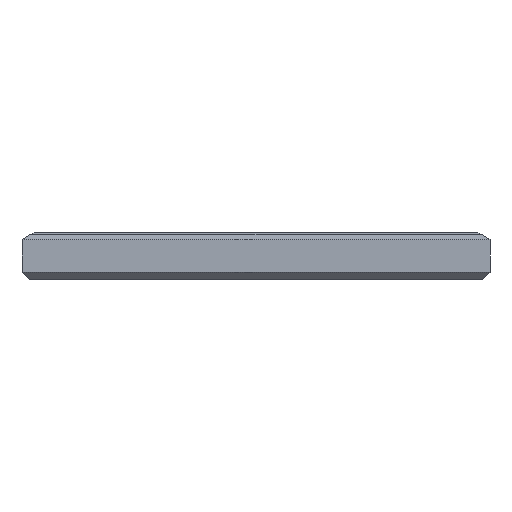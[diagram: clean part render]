
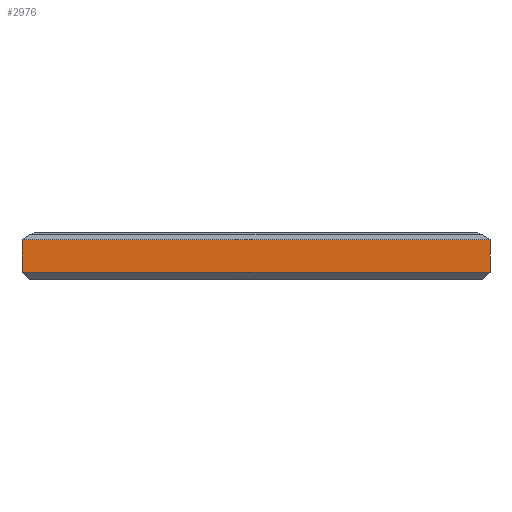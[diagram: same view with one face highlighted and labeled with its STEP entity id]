
A CAD part, left-side view. The second image highlights one B-rep face of the part: STEP entity #2976.
In plain terms, the highlighted planar face has unit normal (-1, 0, 0).
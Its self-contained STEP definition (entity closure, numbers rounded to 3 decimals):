
#57 = CARTESIAN_POINT ( 'NONE',  ( 0., 0., 3. ) ) ;
#247 = DIRECTION ( 'NONE',  ( 0., -1., 0. ) ) ;
#253 = VECTOR ( 'NONE', #2139, 1000. ) ;
#405 = VERTEX_POINT ( 'NONE', #57 ) ;
#427 = ORIENTED_EDGE ( 'NONE', *, *, #4324, .F. ) ;
#489 = FACE_OUTER_BOUND ( 'NONE', #6204, .T. ) ;
#864 = ORIENTED_EDGE ( 'NONE', *, *, #7754, .F. ) ;
#1803 = ORIENTED_EDGE ( 'NONE', *, *, #8160, .T. ) ;
#1829 = VERTEX_POINT ( 'NONE', #4097 ) ;
#2051 = CARTESIAN_POINT ( 'NONE',  ( 0., 100., 3. ) ) ;
#2064 = LINE ( 'NONE', #2051, #5390 ) ;
#2139 = DIRECTION ( 'NONE',  ( 0., 0., 1. ) ) ;
#2705 = DIRECTION ( 'NONE',  ( 0., -1., 0. ) ) ;
#2976 = ADVANCED_FACE ( 'NONE', ( #489 ), #3204, .T. ) ;
#3007 = VECTOR ( 'NONE', #247, 1000. ) ;
#3061 = ORIENTED_EDGE ( 'NONE', *, *, #5455, .T. ) ;
#3204 = PLANE ( 'NONE',  #7105 ) ;
#3292 = CARTESIAN_POINT ( 'NONE',  ( 0., 200., 3. ) ) ;
#3836 = CARTESIAN_POINT ( 'NONE',  ( 0., 200., 17. ) ) ;
#3907 = DIRECTION ( 'NONE',  ( -1., 0., 0. ) ) ;
#4097 = CARTESIAN_POINT ( 'NONE',  ( 0., 0., 17. ) ) ;
#4189 = CARTESIAN_POINT ( 'NONE',  ( 0., 0., 10. ) ) ;
#4324 = EDGE_CURVE ( 'NONE', #7116, #7338, #5551, .T. ) ;
#5104 = CARTESIAN_POINT ( 'NONE',  ( 0., 200., 10. ) ) ;
#5325 = VECTOR ( 'NONE', #7034, 1000. ) ;
#5386 = LINE ( 'NONE', #4189, #253 ) ;
#5390 = VECTOR ( 'NONE', #2705, 1000. ) ;
#5455 = EDGE_CURVE ( 'NONE', #405, #1829, #5386, .T. ) ;
#5551 = LINE ( 'NONE', #5104, #5325 ) ;
#6204 = EDGE_LOOP ( 'NONE', ( #3061, #864, #427, #1803 ) ) ;
#7034 = DIRECTION ( 'NONE',  ( 0., 0., 1. ) ) ;
#7105 = AXIS2_PLACEMENT_3D ( 'NONE', #7890, #3907, #8546 ) ;
#7116 = VERTEX_POINT ( 'NONE', #3292 ) ;
#7338 = VERTEX_POINT ( 'NONE', #3836 ) ;
#7754 = EDGE_CURVE ( 'NONE', #7338, #1829, #8333, .T. ) ;
#7890 = CARTESIAN_POINT ( 'NONE',  ( 0., 200., 0. ) ) ;
#8160 = EDGE_CURVE ( 'NONE', #7116, #405, #2064, .T. ) ;
#8299 = CARTESIAN_POINT ( 'NONE',  ( 0., 100., 17. ) ) ;
#8333 = LINE ( 'NONE', #8299, #3007 ) ;
#8546 = DIRECTION ( 'NONE',  ( 0., 0., 1. ) ) ;
